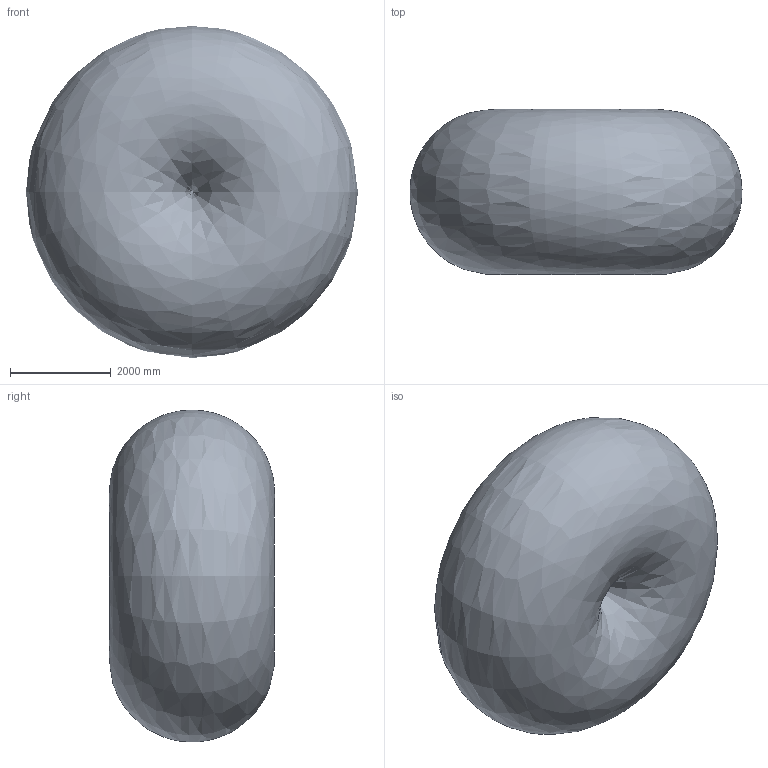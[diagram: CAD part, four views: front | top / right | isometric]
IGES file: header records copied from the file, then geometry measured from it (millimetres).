
Global section: file name: 5901867779496_igs; native system: Autodesk Inventor 2020; preprocessor: unknown; date: 20200727.152220; units: millimetre
Bounding box: 6580.87 x 3272.02 x 6580.87 mm (x, y, z)
Surface area: 107254700.5 mm2 (no closed solid volume)
Topology: 0 solids, 0 shells, 3957 faces, 48317 edges, 46752 vertices
Faces by surface type: bspline 2342, revolution 1615
